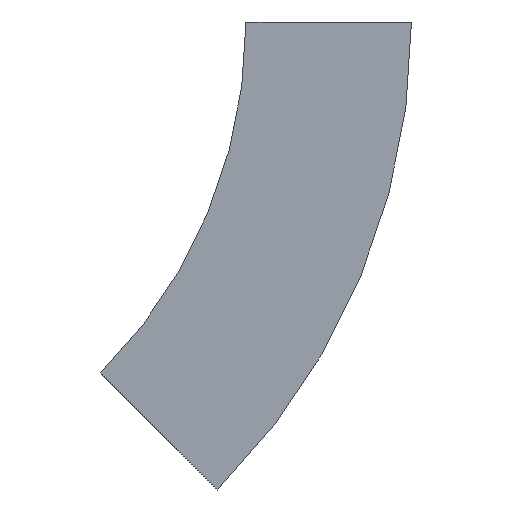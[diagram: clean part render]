
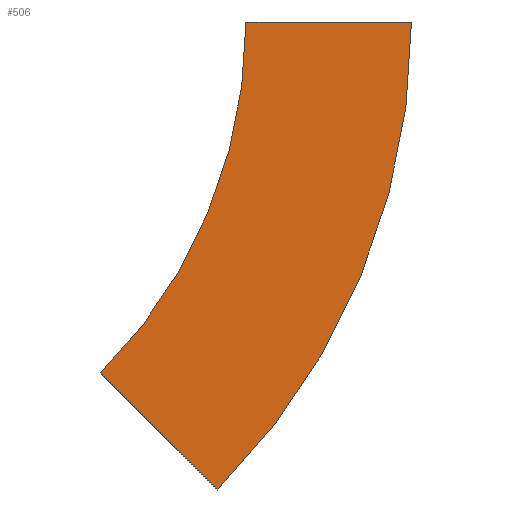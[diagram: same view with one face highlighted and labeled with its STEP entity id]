
A CAD part, left-side view. The second image highlights one B-rep face of the part: STEP entity #506.
In plain terms, the highlighted planar face has unit normal (-1, 0, 0) as drawn and (1, 0, 0) by its records, which use the part's own axes.
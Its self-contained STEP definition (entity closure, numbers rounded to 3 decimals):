
#40 = LINE ( 'NONE', #435, #215 ) ;
#65 = VERTEX_POINT ( 'NONE', #433 ) ;
#71 = AXIS2_PLACEMENT_3D ( 'NONE', #135, #509, #125 ) ;
#111 = EDGE_CURVE ( 'NONE', #537, #118, #236, .T. ) ;
#118 = VERTEX_POINT ( 'NONE', #401 ) ;
#123 = CARTESIAN_POINT ( 'NONE',  ( 0., -100., 0. ) ) ;
#125 = DIRECTION ( 'NONE',  ( 0., -1., 0. ) ) ;
#130 = AXIS2_PLACEMENT_3D ( 'NONE', #490, #377, #196 ) ;
#134 = EDGE_CURVE ( 'NONE', #204, #537, #363, .T. ) ;
#135 = CARTESIAN_POINT ( 'NONE',  ( 0., 300., 0. ) ) ;
#172 = EDGE_CURVE ( 'NONE', #65, #118, #477, .T. ) ;
#196 = DIRECTION ( 'NONE',  ( 0., 0., 1. ) ) ;
#204 = VERTEX_POINT ( 'NONE', #123 ) ;
#215 = VECTOR ( 'NONE', #529, 1000. ) ;
#226 = DIRECTION ( 'NONE',  ( 0., 0.707, 0.707 ) ) ;
#236 = LINE ( 'NONE', #430, #326 ) ;
#263 = ORIENTED_EDGE ( 'NONE', *, *, #111, .T. ) ;
#265 = AXIS2_PLACEMENT_3D ( 'NONE', #558, #552, #396 ) ;
#281 = EDGE_LOOP ( 'NONE', ( #497, #299, #516, #263 ) ) ;
#299 = ORIENTED_EDGE ( 'NONE', *, *, #456, .F. ) ;
#326 = VECTOR ( 'NONE', #226, 1000. ) ;
#329 = FACE_OUTER_BOUND ( 'NONE', #281, .T. ) ;
#363 = CIRCLE ( 'NONE', #265, 400. ) ;
#377 = DIRECTION ( 'NONE',  ( -1., 0., 0. ) ) ;
#396 = DIRECTION ( 'NONE',  ( 0., -1., 0. ) ) ;
#401 = CARTESIAN_POINT ( 'NONE',  ( 0., 87.868, -212.132 ) ) ;
#430 = CARTESIAN_POINT ( 'NONE',  ( 0., 17.157, -282.843 ) ) ;
#433 = CARTESIAN_POINT ( 'NONE',  ( 0., 0., 0. ) ) ;
#435 = CARTESIAN_POINT ( 'NONE',  ( 0., -100., 0. ) ) ;
#456 = EDGE_CURVE ( 'NONE', #204, #65, #40, .T. ) ;
#477 = CIRCLE ( 'NONE', #71, 300. ) ;
#490 = CARTESIAN_POINT ( 'NONE',  ( 0., -100., 0. ) ) ;
#492 = CARTESIAN_POINT ( 'NONE',  ( 0., 17.157, -282.843 ) ) ;
#497 = ORIENTED_EDGE ( 'NONE', *, *, #172, .F. ) ;
#506 = ADVANCED_FACE ( 'NONE', ( #329 ), #531, .F. ) ;
#509 = DIRECTION ( 'NONE',  ( 1., 0., 0. ) ) ;
#516 = ORIENTED_EDGE ( 'NONE', *, *, #134, .T. ) ;
#529 = DIRECTION ( 'NONE',  ( 0., 1., 0. ) ) ;
#531 = PLANE ( 'NONE',  #130 ) ;
#537 = VERTEX_POINT ( 'NONE', #492 ) ;
#552 = DIRECTION ( 'NONE',  ( 1., 0., 0. ) ) ;
#558 = CARTESIAN_POINT ( 'NONE',  ( 0., 300., 0. ) ) ;
